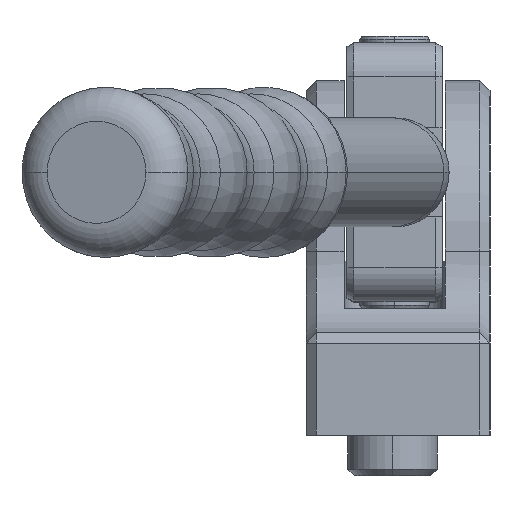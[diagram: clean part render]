
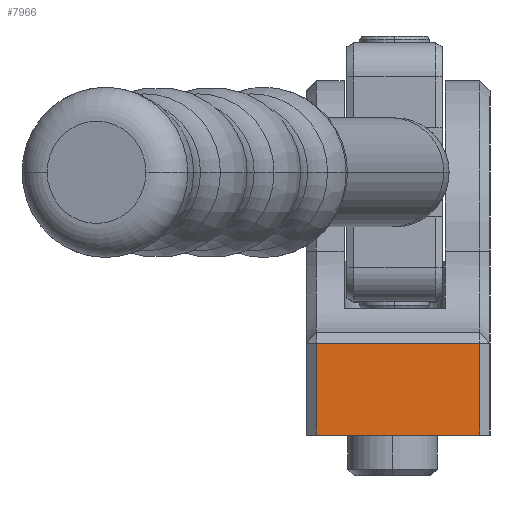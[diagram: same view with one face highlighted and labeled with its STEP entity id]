
A CAD part, left-side view. The second image highlights one B-rep face of the part: STEP entity #7966.
In plain terms, the highlighted planar face has unit normal (-1, 0, 0).
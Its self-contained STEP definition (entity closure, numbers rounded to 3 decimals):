
#409 = CARTESIAN_POINT ( 'NONE',  ( -65., -12.5, -27. ) ) ;
#534 = CARTESIAN_POINT ( 'NONE',  ( -65., 11.5, -28.5 ) ) ;
#1195 = AXIS2_PLACEMENT_3D ( 'NONE', #2255, #2968, #6135 ) ;
#1366 = EDGE_CURVE ( 'NONE', #2089, #4679, #5715, .T. ) ;
#1717 = LINE ( 'NONE', #3366, #7618 ) ;
#1882 = EDGE_CURVE ( 'NONE', #4679, #3101, #3402, .T. ) ;
#2089 = VERTEX_POINT ( 'NONE', #3731 ) ;
#2255 = CARTESIAN_POINT ( 'NONE',  ( -65., -14., -27. ) ) ;
#2396 = EDGE_LOOP ( 'NONE', ( #4407, #7172, #9592, #8502 ) ) ;
#2968 = DIRECTION ( 'NONE',  ( -1., 0., 0. ) ) ;
#3101 = VERTEX_POINT ( 'NONE', #534 ) ;
#3366 = CARTESIAN_POINT ( 'NONE',  ( -65., 11.5, -27. ) ) ;
#3402 = LINE ( 'NONE', #4127, #3698 ) ;
#3698 = VECTOR ( 'NONE', #6947, 1000. ) ;
#3731 = CARTESIAN_POINT ( 'NONE',  ( -65., -12.5, -42. ) ) ;
#4127 = CARTESIAN_POINT ( 'NONE',  ( -65., -14., -28.5 ) ) ;
#4368 = VECTOR ( 'NONE', #9623, 1000. ) ;
#4407 = ORIENTED_EDGE ( 'NONE', *, *, #5313, .F. ) ;
#4679 = VERTEX_POINT ( 'NONE', #8786 ) ;
#4713 = LINE ( 'NONE', #8970, #8557 ) ;
#5076 = CARTESIAN_POINT ( 'NONE',  ( -65., 11.5, -42. ) ) ;
#5275 = PLANE ( 'NONE',  #1195 ) ;
#5313 = EDGE_CURVE ( 'NONE', #2089, #5867, #4713, .T. ) ;
#5715 = LINE ( 'NONE', #409, #4368 ) ;
#5867 = VERTEX_POINT ( 'NONE', #5076 ) ;
#5918 = DIRECTION ( 'NONE',  ( 0., 0., -1. ) ) ;
#6135 = DIRECTION ( 'NONE',  ( 0., 0., 1. ) ) ;
#6947 = DIRECTION ( 'NONE',  ( 0., 1., 0. ) ) ;
#7172 = ORIENTED_EDGE ( 'NONE', *, *, #1366, .T. ) ;
#7398 = FACE_OUTER_BOUND ( 'NONE', #2396, .T. ) ;
#7618 = VECTOR ( 'NONE', #5918, 1000. ) ;
#7966 = ADVANCED_FACE ( 'NONE', ( #7398 ), #5275, .T. ) ;
#8502 = ORIENTED_EDGE ( 'NONE', *, *, #9509, .T. ) ;
#8557 = VECTOR ( 'NONE', #8729, 1000. ) ;
#8729 = DIRECTION ( 'NONE',  ( 0., 1., 0. ) ) ;
#8786 = CARTESIAN_POINT ( 'NONE',  ( -65., -12.5, -28.5 ) ) ;
#8970 = CARTESIAN_POINT ( 'NONE',  ( -65., -14., -42. ) ) ;
#9509 = EDGE_CURVE ( 'NONE', #3101, #5867, #1717, .T. ) ;
#9592 = ORIENTED_EDGE ( 'NONE', *, *, #1882, .T. ) ;
#9623 = DIRECTION ( 'NONE',  ( 0., 0., 1. ) ) ;
